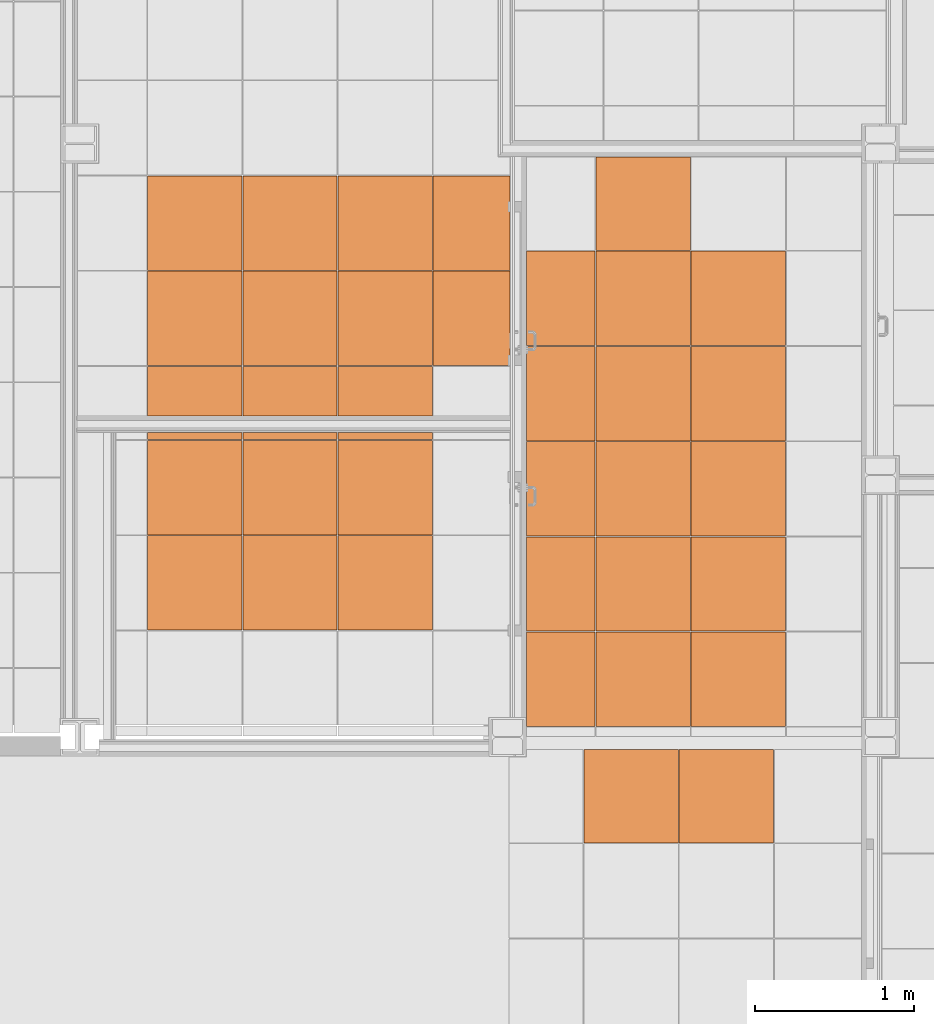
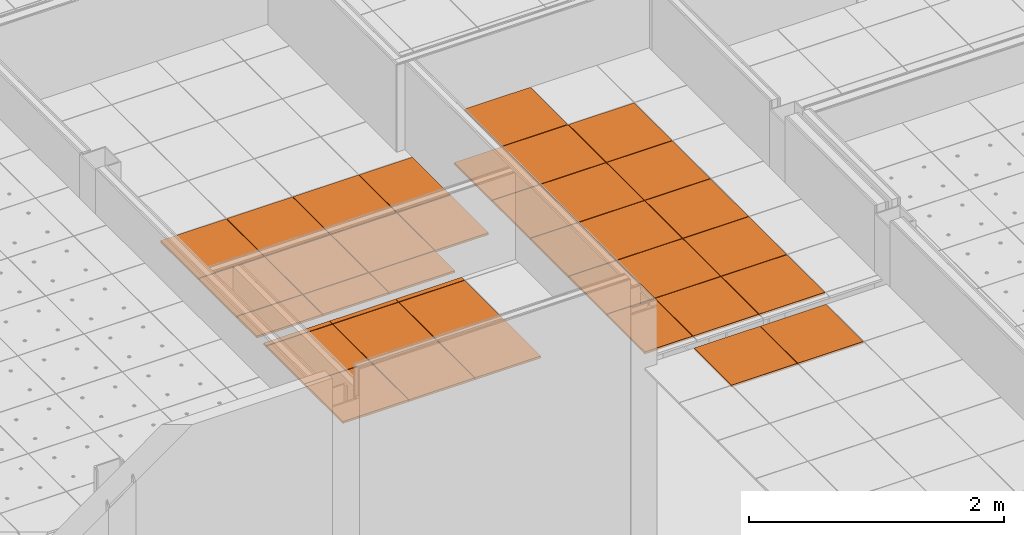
# One storey, part 252 of 338: 38 proxies, 4 elements without a shape of their own.
"""IFC2X3 building model written with IfcOpenShell, lengths in millimetres."""

from ifc_helpers import new_model, entity, si_unit, converted_unit, derived_unit, money_unit, direction, frame, origin_with_axes, place, context, subcontext, project, spatial, faceted_brep, source, transform, mapped, material, type_object, type_shapes, element, aggregate, save


model = new_model("IFC2X3")

# Units and contexts
model_context = context("Model", 3, precision=0.01, world=origin_with_axes(), true_north=direction((0.0, 1.0)))
plan_context = context("Plan", 3, precision=0.01, world=origin_with_axes(), true_north=direction((0.0, 1.0)))
body_context = subcontext(model_context, "Body", "Model", "MODEL_VIEW")
ifc_project = project(units=[si_unit("LENGTHUNIT", "METRE", prefix="MILLI"), si_unit("AREAUNIT", "SQUARE_METRE"), si_unit("VOLUMEUNIT", "CUBIC_METRE"), converted_unit("PLANEANGLEUNIT", "DEGREE", entity("IfcPlaneAngleMeasure", 0.0174532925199), si_unit("PLANEANGLEUNIT", "RADIAN"), dimensions=[0, 0, 0, 0, 0, 0, 0]), money_unit("EUR"), converted_unit("TIMEUNIT", "Year", entity("IfcTimeMeasure", 31556926.0), si_unit("TIMEUNIT", "SECOND"), dimensions=[0, 0, 1, 0, 0, 0, 0]), si_unit("MASSUNIT", "GRAM", prefix="KILO"), si_unit("THERMODYNAMICTEMPERATUREUNIT", "DEGREE_CELSIUS"), si_unit("LUMINOUSINTENSITYUNIT", "LUMEN"), si_unit("ENERGYUNIT", "JOULE", prefix="MEGA"), derived_unit("THERMALCONDUCTANCEUNIT", [(si_unit("POWERUNIT", "WATT"), 1), (si_unit("LENGTHUNIT", "METRE"), -1), (si_unit("THERMODYNAMICTEMPERATUREUNIT", "KELVIN"), -1)]), derived_unit("SPECIFICHEATCAPACITYUNIT", [(si_unit("ENERGYUNIT", "JOULE"), 1), (si_unit("MASSUNIT", "GRAM", prefix="KILO"), -1), (si_unit("THERMODYNAMICTEMPERATUREUNIT", "KELVIN"), -1)]), derived_unit("MASSDENSITYUNIT", [(si_unit("MASSUNIT", "GRAM", prefix="KILO"), 1), (si_unit("VOLUMEUNIT", "CUBIC_METRE"), -1)])], contexts=[model_context, plan_context])

# Site, building, storey
site_placement = place(None, origin_with_axes())
site = spatial("IfcSite", under=ifc_project, at=site_placement, Name="Fortuinstraat Woensdrecht", CompositionType="ELEMENT")
building_placement = place(site_placement, origin_with_axes())
building = spatial("IfcBuilding", under=site, at=building_placement, Name="IKC Fortuna", CompositionType="ELEMENT")
storey_placement = place(building_placement, origin_with_axes())
storey = spatial("IfcBuildingStorey", under=building, at=storey_placement, Name="00 begane grond", CompositionType="ELEMENT", Elevation=0.0)

# Covering, proxies
covering_type = type_object("IfcCoveringType", Name="Curtain Wall Type", PredefinedType="CEILING")
covering_1_placement = place(storey_placement, frame((21294.5342274, 19421.5253195, 2810.0), z_axis=(0.0, 0.0, 1.0), x_axis=(1.0, 0.0, 0.0)))
covering_1 = element("IfcCovering", 1, at=covering_1_placement, inside=storey, type_object=covering_type, Name="45_Plafondafwerking_P02", PredefinedType="CEILING")
ifc_material = material(Name="Gipsplaat")
building_element_proxy_type_1 = type_object("IfcBuildingElementProxyType", Name="Distinct Panel 600 x 600 x 20", PredefinedType="NOTDEFINED")
shared_shape_1 = source(origin_with_axes(), body_context, "Body", "Brep", [
    faceted_brep([(2.49999999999, 2.5, -10.0), (597.5, 2.49999999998, -10.0), (597.5, 2.49999999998, 10.0), (2.49999999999, 2.5, 10.0), (2.50000000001, 597.5, -10.0), (597.5, 597.5, -10.0), (597.5, 597.5, 10.0), (2.50000000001, 597.5, 10.0)], [[[0, 1, 2, 3]], [[0, 4, 5, 1]], [[1, 5, 6, 2]], [[3, 2, 6, 7]], [[4, 0, 3, 7]], [[5, 4, 7, 6]]]),
])
proxy_1_placement = place(covering_1_placement, frame((0.0, -600.0, 0.0), z_axis=(0.0, 0.0, 1.0), x_axis=(1.0, 0.0, 0.0)))
proxy_1 = element("IfcBuildingElementProxy", 2, at=proxy_1_placement, type_object=building_element_proxy_type_1, material=ifc_material, Name="__Panel-D", context=body_context, shape_type="MappedRepresentation", body=[
    mapped(shared_shape_1, transform((300.0, 300.0, 0.0), x_axis=(-1.0, 0.0, 0.0), y_axis=(0.0, -1.0, 0.0), z_axis=(0.0, 0.0, 1.0))),
])
proxy_2_placement = place(covering_1_placement, frame((1200.0, 0.0, 0.0), z_axis=(0.0, 0.0, 1.0), x_axis=(1.0, 0.0, 0.0)))
proxy_2 = element("IfcBuildingElementProxy", 3, at=proxy_2_placement, type_object=building_element_proxy_type_1, material=ifc_material, Name="__Panel-D", context=body_context, shape_type="MappedRepresentation", body=[
    mapped(shared_shape_1, transform((300.0, 300.0, 0.0), x_axis=(-1.0, 0.0, 0.0), y_axis=(0.0, -1.0, 0.0), z_axis=(0.0, 0.0, 1.0))),
])
proxy_3_placement = place(covering_1_placement, frame((600.0, -600.0, 0.0), z_axis=(0.0, 0.0, 1.0), x_axis=(1.0, 0.0, 0.0)))
proxy_3 = element("IfcBuildingElementProxy", 4, at=proxy_3_placement, type_object=building_element_proxy_type_1, material=ifc_material, Name="__Panel-D", context=body_context, shape_type="MappedRepresentation", body=[
    mapped(shared_shape_1, transform((300.0, 300.0, 0.0), x_axis=(-1.0, 0.0, 0.0), y_axis=(0.0, -1.0, 0.0), z_axis=(0.0, 0.0, 1.0))),
])
proxy_4_placement = place(covering_1_placement, frame((1200.0, -600.0, 0.0), z_axis=(0.0, 0.0, 1.0), x_axis=(1.0, 0.0, 0.0)))
proxy_4 = element("IfcBuildingElementProxy", 5, at=proxy_4_placement, type_object=building_element_proxy_type_1, material=ifc_material, Name="__Panel-D", context=body_context, shape_type="MappedRepresentation", body=[
    mapped(shared_shape_1, transform((300.0, 300.0, 0.0), x_axis=(-1.0, 0.0, 0.0), y_axis=(0.0, -1.0, 0.0), z_axis=(0.0, 0.0, 1.0))),
])
shared_shape_2 = source(origin_with_axes(), body_context, "Body", "Brep", [
    faceted_brep([(2.5000069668, 2.4999963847, -10.0), (597.499995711, 2.50000275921, -10.0), (597.499995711, 2.50000275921, 10.0), (2.5000069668, 2.4999963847, 10.0), (2.50000214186, 597.499967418, -10.0), (597.499990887, 597.499973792, -10.0), (597.499990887, 597.499973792, 10.0), (2.50000214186, 597.499967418, 10.0)], [[[0, 1, 2, 3]], [[0, 4, 5, 1]], [[1, 5, 6, 2]], [[3, 2, 6, 7]], [[4, 0, 3, 7]], [[5, 4, 7, 6]]]),
])
proxy_5_placement = place(covering_1_placement, origin_with_axes())
proxy_5 = element("IfcBuildingElementProxy", 6, at=proxy_5_placement, type_object=building_element_proxy_type_1, material=ifc_material, Name="__Panel-D", context=body_context, shape_type="MappedRepresentation", body=[
    mapped(shared_shape_2, transform((300.0, 300.0, 0.0), x_axis=(-1.0, 0.0, 0.0), y_axis=(0.0, -1.0, 0.0), z_axis=(0.0, 0.0, 1.0))),
])
proxy_6_placement = place(covering_1_placement, frame((600.0, 0.0, 0.0), z_axis=(0.0, 0.0, 1.0), x_axis=(1.0, 0.0, 0.0)))
proxy_6 = element("IfcBuildingElementProxy", 7, at=proxy_6_placement, type_object=building_element_proxy_type_1, material=ifc_material, Name="__Panel-D", context=body_context, shape_type="MappedRepresentation", body=[
    mapped(shared_shape_2, transform((300.0, 300.0, 0.0), x_axis=(-1.0, 0.0, 0.0), y_axis=(0.0, -1.0, 0.0), z_axis=(0.0, 0.0, 1.0))),
])

# Covering, proxy
covering_2_placement = place(storey_placement, frame((20894.5342271, 16221.6737522, 2810.0), z_axis=(0.0, 0.0, 1.0), x_axis=(1.0, 0.0, 0.0)))
covering_2 = element("IfcCovering", 8, at=covering_2_placement, inside=storey, type_object=covering_type, Name="45_Plafondafwerking_P02", PredefinedType="CEILING")
shared_shape_3 = source(origin_with_axes(), body_context, "Body", "Brep", [
    faceted_brep([(-2.49999999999, 2.5, -10.0), (-2.49999999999, 2.5, 10.0), (-597.5, 2.49999999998, 10.0), (-597.5, 2.49999999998, -10.0), (-2.50000000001, 597.5, -10.0), (-2.50000000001, 597.5, 10.0), (-597.5, 597.5, 10.0), (-597.5, 597.5, -10.0)], [[[0, 1, 2, 3]], [[4, 5, 1, 0]], [[1, 5, 6, 2]], [[3, 2, 6, 7]], [[0, 3, 7, 4]], [[7, 6, 5, 4]]]),
])
proxy_7_placement = place(covering_2_placement, frame((1000.00000086, 933.258042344, 0.0), z_axis=(0.0, 0.0, 1.0), x_axis=(1.0, 0.0, 0.0)))
proxy_7 = element("IfcBuildingElementProxy", 9, at=proxy_7_placement, type_object=building_element_proxy_type_1, material=ifc_material, Name="__Panel-D", context=body_context, shape_type="MappedRepresentation", body=[
    mapped(shared_shape_3, transform((-300.0, 300.0, 0.0), x_axis=(-1.0, 0.0, 0.0), y_axis=(0.0, -1.0, 0.0), z_axis=(0.0, 0.0, 1.0))),
])

# Covering, proxies
covering_3_placement = place(storey_placement, frame((25258.7056243, 17147.3582181, 3010.0), z_axis=(0.0, 0.0, 1.0), x_axis=(1.0, 0.0, 0.0)))
covering_3 = element("IfcCovering", 10, at=covering_3_placement, inside=storey, type_object=covering_type, Name="45_Plafondafwerking_P04", PredefinedType="CEILING")
proxy_8_placement = place(covering_3_placement, frame((-1139.22934449, 1800.0, 0.0), z_axis=(0.0, 0.0, 1.0), x_axis=(1.0, 0.0, 0.0)))
proxy_8 = element("IfcBuildingElementProxy", 11, at=proxy_8_placement, type_object=building_element_proxy_type_1, material=ifc_material, Name="__Panel-D", context=body_context, shape_type="MappedRepresentation", body=[
    mapped(shared_shape_3, transform((-300.0, 300.0, 0.0), x_axis=(-1.0, 0.0, 0.0), y_axis=(0.0, -1.0, 0.0), z_axis=(0.0, 0.0, 1.0))),
])
proxy_9_placement = place(covering_3_placement, frame((-1139.22934449, 0.0, 0.0), z_axis=(0.0, 0.0, 1.0), x_axis=(1.0, 0.0, 0.0)))
proxy_9 = element("IfcBuildingElementProxy", 12, at=proxy_9_placement, type_object=building_element_proxy_type_1, material=ifc_material, Name="__Panel-D", context=body_context, shape_type="MappedRepresentation", body=[
    mapped(shared_shape_3, transform((-300.0, 300.0, 0.0), x_axis=(-1.0, 0.0, 0.0), y_axis=(0.0, -1.0, 0.0), z_axis=(0.0, 0.0, 1.0))),
])
proxy_10_placement = place(covering_3_placement, frame((-1139.22934449, 1200.0, 0.0), z_axis=(0.0, 0.0, 1.0), x_axis=(1.0, 0.0, 0.0)))
proxy_10 = element("IfcBuildingElementProxy", 13, at=proxy_10_placement, type_object=building_element_proxy_type_1, material=ifc_material, Name="__Panel-D", context=body_context, shape_type="MappedRepresentation", body=[
    mapped(shared_shape_3, transform((-300.0, 300.0, 0.0), x_axis=(-1.0, 0.0, 0.0), y_axis=(0.0, -1.0, 0.0), z_axis=(0.0, 0.0, 1.0))),
])
proxy_11_placement = place(covering_3_placement, frame((-539.22934449, 1800.0, 0.0), z_axis=(0.0, 0.0, 1.0), x_axis=(1.0, 0.0, 0.0)))
proxy_11 = element("IfcBuildingElementProxy", 14, at=proxy_11_placement, type_object=building_element_proxy_type_1, material=ifc_material, Name="__Panel-D", context=body_context, shape_type="MappedRepresentation", body=[
    mapped(shared_shape_3, transform((-300.0, 300.0, 0.0), x_axis=(-1.0, 0.0, 0.0), y_axis=(0.0, -1.0, 0.0), z_axis=(0.0, 0.0, 1.0))),
])
proxy_12_placement = place(covering_3_placement, frame((-1139.22934449, 600.0, 0.0), z_axis=(0.0, 0.0, 1.0), x_axis=(1.0, 0.0, 0.0)))
proxy_12 = element("IfcBuildingElementProxy", 15, at=proxy_12_placement, type_object=building_element_proxy_type_1, material=ifc_material, Name="__Panel-D", context=body_context, shape_type="MappedRepresentation", body=[
    mapped(shared_shape_3, transform((-300.0, 300.0, 0.0), x_axis=(-1.0, 0.0, 0.0), y_axis=(0.0, -1.0, 0.0), z_axis=(0.0, 0.0, 1.0))),
])
proxy_13_placement = place(covering_3_placement, frame((-539.22934449, 0.0, 0.0), z_axis=(0.0, 0.0, 1.0), x_axis=(1.0, 0.0, 0.0)))
proxy_13 = element("IfcBuildingElementProxy", 16, at=proxy_13_placement, type_object=building_element_proxy_type_1, material=ifc_material, Name="__Panel-D", context=body_context, shape_type="MappedRepresentation", body=[
    mapped(shared_shape_3, transform((-300.0, 300.0, 0.0), x_axis=(-1.0, 0.0, 0.0), y_axis=(0.0, -1.0, 0.0), z_axis=(0.0, 0.0, 1.0))),
])
proxy_14_placement = place(covering_3_placement, frame((-539.22934449, 600.0, 0.0), z_axis=(0.0, 0.0, 1.0), x_axis=(1.0, 0.0, 0.0)))
proxy_14 = element("IfcBuildingElementProxy", 17, at=proxy_14_placement, type_object=building_element_proxy_type_1, material=ifc_material, Name="__Panel-D", context=body_context, shape_type="MappedRepresentation", body=[
    mapped(shared_shape_3, transform((-300.0, 300.0, 0.0), x_axis=(-1.0, 0.0, 0.0), y_axis=(0.0, -1.0, 0.0), z_axis=(0.0, 0.0, 1.0))),
])
proxy_15_placement = place(covering_3_placement, frame((-539.22934449, 1200.0, 0.0), z_axis=(0.0, 0.0, 1.0), x_axis=(1.0, 0.0, 0.0)))
proxy_15 = element("IfcBuildingElementProxy", 18, at=proxy_15_placement, type_object=building_element_proxy_type_1, material=ifc_material, Name="__Panel-D", context=body_context, shape_type="MappedRepresentation", body=[
    mapped(shared_shape_3, transform((-300.0, 300.0, 0.0), x_axis=(-1.0, 0.0, 0.0), y_axis=(0.0, -1.0, 0.0), z_axis=(0.0, 0.0, 1.0))),
])

# Proxy
shared_shape_4 = source(origin_with_axes(), body_context, "Body", "Brep", [
    faceted_brep([(-2.50000188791, 2.50000518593, -10.0), (-2.50000188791, 2.50000518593, 10.0), (-597.499994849, 2.50000192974, 10.0), (-597.499994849, 2.50000192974, -10.0), (-2.50000514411, 597.499998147, -10.0), (-2.50000514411, 597.499998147, 10.0), (-597.499998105, 597.499994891, 10.0), (-597.499998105, 597.499994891, -10.0)], [[[0, 1, 2, 3]], [[4, 5, 1, 0]], [[1, 5, 6, 2]], [[3, 2, 6, 7]], [[0, 3, 7, 4]], [[7, 6, 5, 4]]]),
])
proxy_16_placement = place(covering_2_placement, frame((1600.00000086, 933.258042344, 0.0), z_axis=(0.0, 0.0, 1.0), x_axis=(1.0, 0.0, 0.0)))
proxy_16 = element("IfcBuildingElementProxy", 19, at=proxy_16_placement, type_object=building_element_proxy_type_1, material=ifc_material, Name="__Panel-D", context=body_context, shape_type="MappedRepresentation", body=[
    mapped(shared_shape_4, transform((-300.0, 300.0, 0.0), x_axis=(-1.0, 0.0, 0.0), y_axis=(0.0, -1.0, 0.0), z_axis=(0.0, 0.0, 1.0))),
])

shared_shape_5 = source(origin_with_axes(), body_context, "Body", "Brep", [
    faceted_brep([(-2.5000069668, 2.4999963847, -10.0), (-2.5000069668, 2.4999963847, 10.0), (-597.499995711, 2.50000275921, 10.0), (-597.499995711, 2.50000275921, -10.0), (-2.50000214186, 597.499967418, -10.0), (-2.50000214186, 597.499967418, 10.0), (-597.499990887, 597.499973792, 10.0), (-597.499990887, 597.499973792, -10.0)], [[[0, 1, 2, 3]], [[4, 5, 1, 0]], [[1, 5, 6, 2]], [[3, 2, 6, 7]], [[0, 3, 7, 4]], [[7, 6, 5, 4]]]),
])
proxy_17_placement = place(covering_2_placement, frame((400.000000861, 933.258042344, 0.0), z_axis=(0.0, 0.0, 1.0), x_axis=(1.0, 0.0, 0.0)))
proxy_17 = element("IfcBuildingElementProxy", 20, at=proxy_17_placement, type_object=building_element_proxy_type_1, material=ifc_material, Name="__Panel-D", context=body_context, shape_type="MappedRepresentation", body=[
    mapped(shared_shape_5, transform((-300.0, 300.0, 0.0), x_axis=(-1.0, 0.0, 0.0), y_axis=(0.0, -1.0, 0.0), z_axis=(0.0, 0.0, 1.0))),
])

shared_shape_6 = source(origin_with_axes(), body_context, "Body", "Brep", [
    faceted_brep([(-2.50000185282, 2.50000514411, -10.0), (-2.50000185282, 2.50000514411, 10.0), (-597.499994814, 2.50000188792, 10.0), (-597.499994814, 2.50000188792, -10.0), (-2.50000510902, 597.499998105, -10.0), (-2.50000510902, 597.499998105, 10.0), (-597.49998844, 597.50000293, 10.0), (-597.49998844, 597.50000293, -10.0)], [[[0, 1, 2, 3]], [[4, 5, 1, 0]], [[1, 5, 6, 2]], [[3, 2, 6, 7]], [[0, 3, 7, 4]], [[7, 6, 5, 4]]]),
])
proxy_18_placement = place(covering_2_placement, frame((1000.00000086, 1533.25804234, 0.0), z_axis=(0.0, 0.0, 1.0), x_axis=(1.0, 0.0, 0.0)))
proxy_18 = element("IfcBuildingElementProxy", 21, at=proxy_18_placement, type_object=building_element_proxy_type_1, material=ifc_material, Name="__Panel-D", context=body_context, shape_type="MappedRepresentation", body=[
    mapped(shared_shape_6, transform((-300.0, 300.0, 0.0), x_axis=(-1.0, 0.0, 0.0), y_axis=(0.0, -1.0, 0.0), z_axis=(0.0, 0.0, 1.0))),
])

building_element_proxy_type_2 = type_object("IfcBuildingElementProxyType", Name="Distinct Panel 600 x 50 x 20", PredefinedType="NOTDEFINED")
shared_shape_7 = source(origin_with_axes(), body_context, "Body", "Brep", [
    faceted_brep([(-2.50000000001, 552.520232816, -10.0), (-2.50000000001, 552.520232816, 10.0), (-597.5, 552.520232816, 10.0), (-597.5, 552.520232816, -10.0), (-2.50000000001, 597.5, -10.0), (-2.50000000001, 597.5, 10.0), (-597.5, 597.5, 10.0), (-597.5, 597.5, -10.0)], [[[0, 1, 2, 3]], [[4, 5, 1, 0]], [[1, 5, 6, 2]], [[3, 2, 6, 7]], [[0, 3, 7, 4]], [[7, 6, 5, 4]]]),
])
type_shapes(building_element_proxy_type_2, [shared_shape_7])
proxy_19_placement = place(covering_2_placement, frame((400.000000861, 1858.24792804, 0.0), z_axis=(0.0, 0.0, 1.0), x_axis=(1.0, 0.0, 0.0)))
proxy_19 = element("IfcBuildingElementProxy", 22, at=proxy_19_placement, type_object=building_element_proxy_type_2, material=ifc_material, Name="__Panel-D", context=body_context, shape_type="MappedRepresentation", body=[
    mapped(shared_shape_7, transform((-300.0, 575.010114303, 0.0), x_axis=(-1.0, 0.0, 0.0), y_axis=(0.0, -1.0, 0.0), z_axis=(0.0, 0.0, 1.0))),
])

proxy_20_placement = place(covering_2_placement, frame((1600.00000086, 1858.24793439, 0.0), z_axis=(0.0, 0.0, 1.0), x_axis=(1.0, 0.0, 0.0)))
proxy_20 = element("IfcBuildingElementProxy", 23, at=proxy_20_placement, type_object=building_element_proxy_type_2, material=ifc_material, Name="__Panel-D", context=body_context, shape_type="MappedRepresentation", body=[
    mapped(shared_shape_7, transform((-300.0, 575.010107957, 0.0), x_axis=(-1.0, 0.0, 0.0), y_axis=(0.0, -1.0, 0.0), z_axis=(0.0, 0.0, 1.0))),
])

proxy_21_placement = place(covering_2_placement, frame((1000.00000086, 1858.24792804, 0.0), z_axis=(0.0, 0.0, 1.0), x_axis=(1.0, 0.0, 0.0)))
proxy_21 = element("IfcBuildingElementProxy", 24, at=proxy_21_placement, type_object=building_element_proxy_type_2, material=ifc_material, Name="__Panel-D", context=body_context, shape_type="MappedRepresentation", body=[
    mapped(shared_shape_7, transform((-300.0, 575.010114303, 0.0), x_axis=(-1.0, 0.0, 0.0), y_axis=(0.0, -1.0, 0.0), z_axis=(0.0, 0.0, 1.0))),
])

shared_shape_8 = source(origin_with_axes(), body_context, "Body", "Brep", [
    faceted_brep([(-2.50000189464, 2.50000510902, -10.0), (-2.50000189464, 2.50000510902, 10.0), (-597.499994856, 2.50000185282, 10.0), (-597.499994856, 2.50000185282, -10.0), (-2.4999970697, 597.49998844, -10.0), (-2.4999970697, 597.49998844, 10.0), (-597.499988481, 597.500002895, 10.0), (-597.499988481, 597.500002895, -10.0)], [[[0, 1, 2, 3]], [[4, 5, 1, 0]], [[1, 5, 6, 2]], [[3, 2, 6, 7]], [[0, 3, 7, 4]], [[7, 6, 5, 4]]]),
])
type_shapes(building_element_proxy_type_1, [shared_shape_1, shared_shape_2, shared_shape_3, shared_shape_4, shared_shape_5, shared_shape_6, shared_shape_8])
proxy_22_placement = place(covering_2_placement, frame((400.000000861, 1533.25804234, 0.0), z_axis=(0.0, 0.0, 1.0), x_axis=(1.0, 0.0, 0.0)))
proxy_22 = element("IfcBuildingElementProxy", 25, at=proxy_22_placement, type_object=building_element_proxy_type_1, material=ifc_material, Name="__Panel-D", context=body_context, shape_type="MappedRepresentation", body=[
    mapped(shared_shape_8, transform((-300.0, 300.0, 0.0), x_axis=(-1.0, 0.0, 0.0), y_axis=(0.0, -1.0, 0.0), z_axis=(0.0, 0.0, 1.0))),
])

proxy_23_placement = place(covering_2_placement, frame((1600.00000086, 1533.25804234, 0.0), z_axis=(0.0, 0.0, 1.0), x_axis=(1.0, 0.0, 0.0)))
proxy_23 = element("IfcBuildingElementProxy", 26, at=proxy_23_placement, type_object=building_element_proxy_type_1, material=ifc_material, Name="__Panel-D", context=body_context, shape_type="MappedRepresentation", body=[
    mapped(shared_shape_8, transform((-300.0, 300.0, 0.0), x_axis=(-1.0, 0.0, 0.0), y_axis=(0.0, -1.0, 0.0), z_axis=(0.0, 0.0, 1.0))),
])

aggregate(covering_2, [proxy_7, proxy_17, proxy_19, proxy_16, proxy_22, proxy_20, proxy_21, proxy_18, proxy_23])

proxy_24_placement = place(covering_3_placement, frame((-1139.22934449, -600.0, 0.0), z_axis=(0.0, 0.0, 1.0), x_axis=(1.0, 0.0, 0.0)))
proxy_24 = element("IfcBuildingElementProxy", 27, at=proxy_24_placement, type_object=building_element_proxy_type_1, material=ifc_material, Name="__Panel-D", context=body_context, shape_type="MappedRepresentation", body=[
    mapped(shared_shape_8, transform((-300.0, 300.0, 0.0), x_axis=(-1.0, 0.0, 0.0), y_axis=(0.0, -1.0, 0.0), z_axis=(0.0, 0.0, 1.0))),
])

proxy_25_placement = place(covering_3_placement, frame((-539.22934449, -600.0, 0.0), z_axis=(0.0, 0.0, 1.0), x_axis=(1.0, 0.0, 0.0)))
proxy_25 = element("IfcBuildingElementProxy", 28, at=proxy_25_placement, type_object=building_element_proxy_type_1, material=ifc_material, Name="__Panel-D", context=body_context, shape_type="MappedRepresentation", body=[
    mapped(shared_shape_8, transform((-300.0, 300.0, 0.0), x_axis=(-1.0, 0.0, 0.0), y_axis=(0.0, -1.0, 0.0), z_axis=(0.0, 0.0, 1.0))),
])

building_element_proxy_type_3 = type_object("IfcBuildingElementProxyType", Name="Distinct Panel 488 x 600 x 20", PredefinedType="NOTDEFINED")
shared_shape_9 = source(origin_with_axes(), body_context, "Body", "Brep", [
    faceted_brep([(114.099250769, 2.5, -10.0), (597.5, 2.49999999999, -10.0), (597.5, 2.49999999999, 10.0), (114.099250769, 2.5, 10.0), (114.099250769, 597.5, -10.0), (597.5, 597.5, -10.0), (597.5, 597.5, 10.0), (114.099250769, 597.5, 10.0)], [[[0, 1, 2, 3]], [[0, 4, 5, 1]], [[1, 5, 6, 2]], [[3, 2, 6, 7]], [[4, 0, 3, 7]], [[5, 4, 7, 6]]]),
])
type_shapes(building_element_proxy_type_3, [shared_shape_9])
proxy_26_placement = place(covering_1_placement, frame((1744.20037346, -600.0, 0.0), z_axis=(0.0, 0.0, 1.0), x_axis=(1.0, 0.0, 0.0)))
proxy_26 = element("IfcBuildingElementProxy", 29, at=proxy_26_placement, type_object=building_element_proxy_type_3, material=ifc_material, Name="__Panel-D", context=body_context, shape_type="MappedRepresentation", body=[
    mapped(shared_shape_9, transform((355.79962654, 300.0, 0.0), x_axis=(-1.0, 0.0, 0.0), y_axis=(0.0, -1.0, 0.0), z_axis=(0.0, 0.0, 1.0))),
])

proxy_27_placement = place(covering_1_placement, frame((1744.20037346, 0.0, 0.0), z_axis=(0.0, 0.0, 1.0), x_axis=(1.0, 0.0, 0.0)))
proxy_27 = element("IfcBuildingElementProxy", 30, at=proxy_27_placement, type_object=building_element_proxy_type_3, material=ifc_material, Name="__Panel-D", context=body_context, shape_type="MappedRepresentation", body=[
    mapped(shared_shape_9, transform((355.79962654, 300.0, 0.0), x_axis=(-1.0, 0.0, 0.0), y_axis=(0.0, -1.0, 0.0), z_axis=(0.0, 0.0, 1.0))),
])

building_element_proxy_type_4 = type_object("IfcBuildingElementProxyType", Name="Distinct Panel 600 x 317 x 20", PredefinedType="NOTDEFINED")
shared_shape_10 = source(origin_with_axes(), body_context, "Body", "Brep", [
    faceted_brep([(2.5, 2.49999667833, -10.0), (597.5, 2.49999667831, -10.0), (597.5, 2.49999667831, 10.0), (2.5, 2.49999667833, 10.0), (2.50000000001, 314.113767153, -10.0), (597.5, 314.113767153, -10.0), (597.5, 314.113767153, 10.0), (2.50000000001, 314.113767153, 10.0)], [[[0, 1, 2, 3]], [[0, 4, 5, 1]], [[1, 5, 6, 2]], [[3, 2, 6, 7]], [[4, 0, 3, 7]], [[5, 4, 7, 6]]]),
])
type_shapes(building_element_proxy_type_4, [shared_shape_10])
proxy_28_placement = place(covering_1_placement, frame((600.0, -1058.30688358, 0.0), z_axis=(0.0, 0.0, 1.0), x_axis=(1.0, 0.0, 0.0)))
proxy_28 = element("IfcBuildingElementProxy", 31, at=proxy_28_placement, type_object=building_element_proxy_type_4, material=ifc_material, Name="__Panel-D", context=body_context, shape_type="MappedRepresentation", body=[
    mapped(shared_shape_10, transform((300.0, 158.306883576, 0.0), x_axis=(-1.0, 0.0, 0.0), y_axis=(0.0, -1.0, 0.0), z_axis=(0.0, 0.0, 1.0))),
])

proxy_29_placement = place(covering_1_placement, frame((1200.0, -1058.30688358, 0.0), z_axis=(0.0, 0.0, 1.0), x_axis=(1.0, 0.0, 0.0)))
proxy_29 = element("IfcBuildingElementProxy", 32, at=proxy_29_placement, type_object=building_element_proxy_type_4, material=ifc_material, Name="__Panel-D", context=body_context, shape_type="MappedRepresentation", body=[
    mapped(shared_shape_10, transform((300.0, 158.306883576, 0.0), x_axis=(-1.0, 0.0, 0.0), y_axis=(0.0, -1.0, 0.0), z_axis=(0.0, 0.0, 1.0))),
])

proxy_30_placement = place(covering_1_placement, frame((0.0, -1058.30688358, 0.0), z_axis=(0.0, 0.0, 1.0), x_axis=(1.0, 0.0, 0.0)))
proxy_30 = element("IfcBuildingElementProxy", 33, at=proxy_30_placement, type_object=building_element_proxy_type_4, material=ifc_material, Name="__Panel-D", context=body_context, shape_type="MappedRepresentation", body=[
    mapped(shared_shape_10, transform((300.0, 158.306883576, 0.0), x_axis=(-1.0, 0.0, 0.0), y_axis=(0.0, -1.0, 0.0), z_axis=(0.0, 0.0, 1.0))),
])

aggregate(covering_1, [proxy_5, proxy_26, proxy_6, proxy_1, proxy_2, proxy_28, proxy_3, proxy_27, proxy_4, proxy_29, proxy_30])

building_element_proxy_type_5 = type_object("IfcBuildingElementProxyType", Name="Distinct Panel 600 x 592 x 20", PredefinedType="NOTDEFINED")
shared_shape_11 = source(origin_with_axes(), body_context, "Body", "Brep", [
    faceted_brep([(-2.49999999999, 10.0938148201, -10.0), (-2.49999999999, 10.0938148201, 10.0), (-597.5, 10.0938148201, 10.0), (-597.5, 10.0938148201, -10.0), (-2.50000000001, 597.5, -10.0), (-2.50000000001, 597.5, 10.0), (-597.5, 597.5, 10.0), (-597.5, 597.5, -10.0)], [[[0, 1, 2, 3]], [[4, 5, 1, 0]], [[1, 5, 6, 2]], [[3, 2, 6, 7]], [[0, 3, 7, 4]], [[7, 6, 5, 4]]]),
])
type_shapes(building_element_proxy_type_5, [shared_shape_11])
proxy_31_placement = place(covering_3_placement, frame((-1139.22934449, 2396.20309437, 0.0), z_axis=(0.0, 0.0, 1.0), x_axis=(1.0, 0.0, 0.0)))
proxy_31 = element("IfcBuildingElementProxy", 34, at=proxy_31_placement, type_object=building_element_proxy_type_5, material=ifc_material, Name="__Panel-D", context=body_context, shape_type="MappedRepresentation", body=[
    mapped(shared_shape_11, transform((-300.0, 303.796905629, 0.0), x_axis=(-1.0, 0.0, 0.0), y_axis=(0.0, -1.0, 0.0), z_axis=(0.0, 0.0, 1.0))),
])

# Covering, proxies
covering_4_placement = place(storey_placement, frame((23508.1808374, 14013.4616156, 3010.0), z_axis=(0.0, 0.0, 1.0), x_axis=(1.0, 0.0, 0.0)))
covering_4 = element("IfcCovering", 35, at=covering_4_placement, inside=storey, type_object=covering_type, Name="45_Plafondafwerking_P04", PredefinedType="CEILING")
proxy_32_placement = place(covering_4_placement, frame((1136.74576449, 1796.20309437, 1.03916875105e-10), z_axis=(0.0, 0.0, 1.0), x_axis=(1.0, 0.0, 0.0)))
proxy_32 = element("IfcBuildingElementProxy", 36, at=proxy_32_placement, type_object=building_element_proxy_type_5, material=ifc_material, Name="__Panel-D", context=body_context, shape_type="MappedRepresentation", body=[
    mapped(shared_shape_11, transform((-300.0, 303.796905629, 0.0), x_axis=(-1.0, 0.0, 0.0), y_axis=(0.0, -1.0, 0.0), z_axis=(0.0, 0.0, 1.0))),
])
proxy_33_placement = place(covering_4_placement, frame((536.745764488, 1796.20309437, 0.0), z_axis=(0.0, 0.0, 1.0), x_axis=(1.0, 0.0, 0.0)))
proxy_33 = element("IfcBuildingElementProxy", 37, at=proxy_33_placement, type_object=building_element_proxy_type_5, material=ifc_material, Name="__Panel-D", context=body_context, shape_type="MappedRepresentation", body=[
    mapped(shared_shape_11, transform((-300.0, 303.796905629, 0.0), x_axis=(-1.0, 0.0, 0.0), y_axis=(0.0, -1.0, 0.0), z_axis=(0.0, 0.0, 1.0))),
])
aggregate(covering_4, [proxy_32, proxy_33])

# Proxy
building_element_proxy_type_6 = type_object("IfcBuildingElementProxyType", Name="Distinct Panel 437 x 600 x 20", PredefinedType="NOTDEFINED")
shared_shape_12 = source(origin_with_axes(), body_context, "Body", "Brep", [
    faceted_brep([(-165.958720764, 2.5, -10.0), (-165.958720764, 2.5, 10.0), (-597.5, 2.49999999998, 10.0), (-597.5, 2.49999999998, -10.0), (-165.958720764, 597.5, -10.0), (-165.958720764, 597.5, 10.0), (-597.5, 597.5, 10.0), (-597.5, 597.5, -10.0)], [[[0, 1, 2, 3]], [[4, 5, 1, 0]], [[1, 5, 6, 2]], [[3, 2, 6, 7]], [[0, 3, 7, 4]], [[7, 6, 5, 4]]]),
])
type_shapes(building_element_proxy_type_6, [shared_shape_12])
proxy_34_placement = place(covering_3_placement, frame((-1657.49998371, 600.0, 0.0), z_axis=(0.0, 0.0, 1.0), x_axis=(1.0, 0.0, 0.0)))
proxy_34 = element("IfcBuildingElementProxy", 38, at=proxy_34_placement, type_object=building_element_proxy_type_6, material=ifc_material, Name="__Panel-D", context=body_context, shape_type="MappedRepresentation", body=[
    mapped(shared_shape_12, transform((-381.729360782, 300.0, 0.0), x_axis=(-1.0, 0.0, 0.0), y_axis=(0.0, -1.0, 0.0), z_axis=(0.0, 0.0, 1.0))),
])

proxy_35_placement = place(covering_3_placement, frame((-1657.49998631, 1800.0, 0.0), z_axis=(0.0, 0.0, 1.0), x_axis=(1.0, 0.0, 0.0)))
proxy_35 = element("IfcBuildingElementProxy", 39, at=proxy_35_placement, type_object=building_element_proxy_type_6, material=ifc_material, Name="__Panel-D", context=body_context, shape_type="MappedRepresentation", body=[
    mapped(shared_shape_12, transform((-381.729358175, 300.0, 0.0), x_axis=(-1.0, 0.0, 0.0), y_axis=(0.0, -1.0, 0.0), z_axis=(0.0, 0.0, 1.0))),
])

proxy_36_placement = place(covering_3_placement, frame((-1657.49998371, 1200.0, 0.0), z_axis=(0.0, 0.0, 1.0), x_axis=(1.0, 0.0, 0.0)))
proxy_36 = element("IfcBuildingElementProxy", 40, at=proxy_36_placement, type_object=building_element_proxy_type_6, material=ifc_material, Name="__Panel-D", context=body_context, shape_type="MappedRepresentation", body=[
    mapped(shared_shape_12, transform((-381.729360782, 300.0, 0.0), x_axis=(-1.0, 0.0, 0.0), y_axis=(0.0, -1.0, 0.0), z_axis=(0.0, 0.0, 1.0))),
])

proxy_37_placement = place(covering_3_placement, frame((-1657.49998371, 0.0, 0.0), z_axis=(0.0, 0.0, 1.0), x_axis=(1.0, 0.0, 0.0)))
proxy_37 = element("IfcBuildingElementProxy", 41, at=proxy_37_placement, type_object=building_element_proxy_type_6, material=ifc_material, Name="__Panel-D", context=body_context, shape_type="MappedRepresentation", body=[
    mapped(shared_shape_12, transform((-381.729360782, 300.0, 0.0), x_axis=(-1.0, 0.0, 0.0), y_axis=(0.0, -1.0, 0.0), z_axis=(0.0, 0.0, 1.0))),
])

proxy_38_placement = place(covering_3_placement, frame((-1657.49998371, -600.0, 0.0), z_axis=(0.0, 0.0, 1.0), x_axis=(1.0, 0.0, 0.0)))
proxy_38 = element("IfcBuildingElementProxy", 42, at=proxy_38_placement, type_object=building_element_proxy_type_6, material=ifc_material, Name="__Panel-D", context=body_context, shape_type="MappedRepresentation", body=[
    mapped(shared_shape_12, transform((-381.729360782, 300.0, 0.0), x_axis=(-1.0, 0.0, 0.0), y_axis=(0.0, -1.0, 0.0), z_axis=(0.0, 0.0, 1.0))),
])

aggregate(covering_3, [proxy_31, proxy_8, proxy_34, proxy_9, proxy_10, proxy_11, proxy_12, proxy_35, proxy_13, proxy_24, proxy_36, proxy_25, proxy_14, proxy_15, proxy_37, proxy_38])

save(model, "model.ifc")
